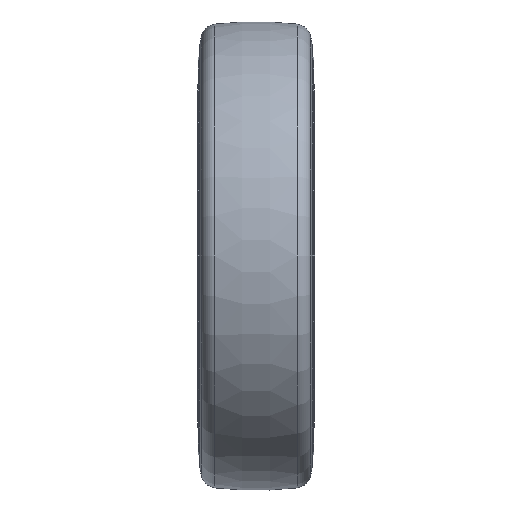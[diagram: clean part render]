
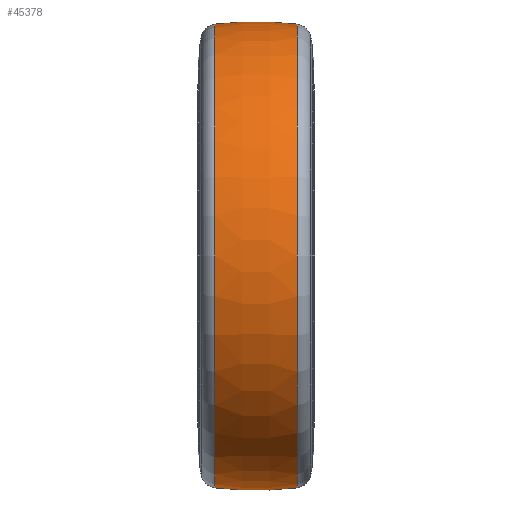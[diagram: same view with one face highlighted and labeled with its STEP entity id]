
A CAD part, front view. The second image highlights one B-rep face of the part: STEP entity #45378.
In plain terms, the highlighted toroidal (fillet/blend) face has major radius 54.125 mm and minor radius 153.625 mm.
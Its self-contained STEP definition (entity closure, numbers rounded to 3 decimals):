
#2727 = ORIENTED_EDGE ( 'NONE', *, *, #5362, .T. ) ;
#3684 = TOROIDAL_SURFACE ( 'NONE', #70901, -54.125, 153.625 ) ;
#5362 = EDGE_CURVE ( 'NONE', #9298, #16560, #11398, .T. ) ;
#6335 = CARTESIAN_POINT ( 'NONE',  ( 17.5, 0., 0. ) ) ;
#8072 = CIRCLE ( 'NONE', #85488, 153.625 ) ;
#9298 = VERTEX_POINT ( 'NONE', #32091 ) ;
#11398 = CIRCLE ( 'NONE', #83007, 98.5 ) ;
#16560 = VERTEX_POINT ( 'NONE', #61821 ) ;
#17759 = CIRCLE ( 'NONE', #51324, 153.625 ) ;
#23754 = CARTESIAN_POINT ( 'NONE',  ( 0., 0., 54.125 ) ) ;
#23845 = EDGE_LOOP ( 'NONE', ( #87661, #2727, #74925, #54557 ) ) ;
#25577 = EDGE_CURVE ( 'NONE', #16560, #54948, #17759, .T. ) ;
#26155 = CARTESIAN_POINT ( 'NONE',  ( 0., 0., 0. ) ) ;
#26598 = DIRECTION ( 'NONE',  ( -1., 0., 0. ) ) ;
#28613 = CARTESIAN_POINT ( 'NONE',  ( -17.5, 0., 98.5 ) ) ;
#28945 = CARTESIAN_POINT ( 'NONE',  ( 0., 0., -54.125 ) ) ;
#32091 = CARTESIAN_POINT ( 'NONE',  ( 17.5, 0., -98.5 ) ) ;
#37188 = DIRECTION ( 'NONE',  ( 0., 0., -1. ) ) ;
#39397 = AXIS2_PLACEMENT_3D ( 'NONE', #58964, #64607, #52553 ) ;
#41062 = VERTEX_POINT ( 'NONE', #82758 ) ;
#45322 = DIRECTION ( 'NONE',  ( 0., 0., 1. ) ) ;
#45378 = ADVANCED_FACE ( 'NONE', ( #62308 ), #3684, .T. ) ;
#51324 = AXIS2_PLACEMENT_3D ( 'NONE', #28945, #52593, #37188 ) ;
#52553 = DIRECTION ( 'NONE',  ( 0., 0., 1. ) ) ;
#52593 = DIRECTION ( 'NONE',  ( 0., -1., 0. ) ) ;
#54067 = DIRECTION ( 'NONE',  ( 0., 0., 1. ) ) ;
#54557 = ORIENTED_EDGE ( 'NONE', *, *, #62654, .F. ) ;
#54948 = VERTEX_POINT ( 'NONE', #28613 ) ;
#56445 = EDGE_CURVE ( 'NONE', #9298, #41062, #8072, .T. ) ;
#58964 = CARTESIAN_POINT ( 'NONE',  ( -17.5, 0., 0. ) ) ;
#61821 = CARTESIAN_POINT ( 'NONE',  ( 17.5, 0., 98.5 ) ) ;
#62308 = FACE_OUTER_BOUND ( 'NONE', #23845, .T. ) ;
#62553 = DIRECTION ( 'NONE',  ( 0., 0., 1. ) ) ;
#62654 = EDGE_CURVE ( 'NONE', #41062, #54948, #71558, .T. ) ;
#64607 = DIRECTION ( 'NONE',  ( -1., 0., 0. ) ) ;
#70901 = AXIS2_PLACEMENT_3D ( 'NONE', #26155, #26598, #54067 ) ;
#71558 = CIRCLE ( 'NONE', #39397, 98.5 ) ;
#73245 = DIRECTION ( 'NONE',  ( 0., 1., 0. ) ) ;
#74925 = ORIENTED_EDGE ( 'NONE', *, *, #25577, .T. ) ;
#82758 = CARTESIAN_POINT ( 'NONE',  ( -17.5, 0., -98.5 ) ) ;
#83007 = AXIS2_PLACEMENT_3D ( 'NONE', #6335, #87954, #62553 ) ;
#85488 = AXIS2_PLACEMENT_3D ( 'NONE', #23754, #73245, #45322 ) ;
#87661 = ORIENTED_EDGE ( 'NONE', *, *, #56445, .F. ) ;
#87954 = DIRECTION ( 'NONE',  ( -1., 0., 0. ) ) ;
